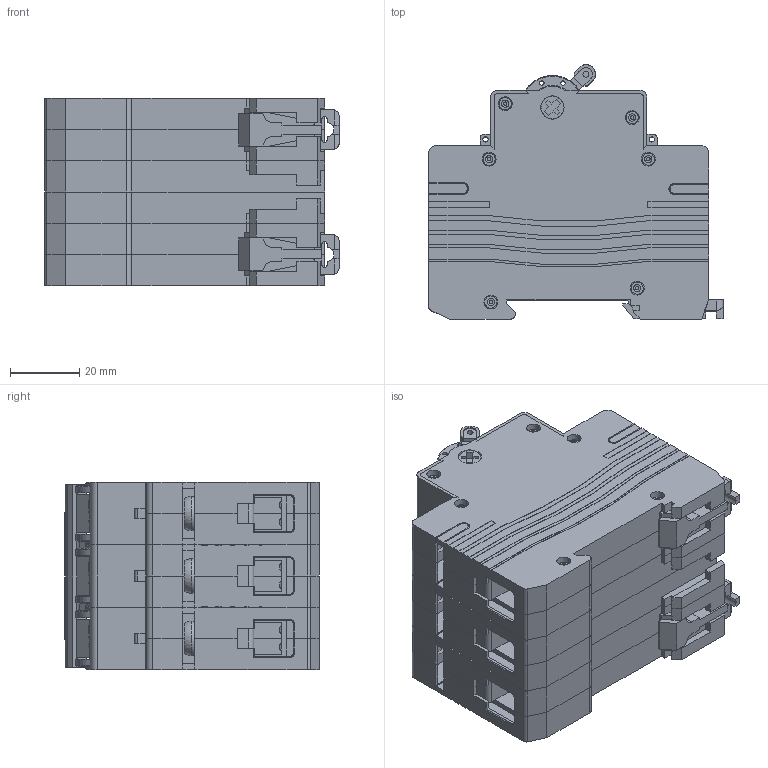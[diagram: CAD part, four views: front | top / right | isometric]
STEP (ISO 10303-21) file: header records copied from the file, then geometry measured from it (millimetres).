
FILE_DESCRIPTION (( 'STEP AP214' ), '1' );
FILE_NAME ('ﾌ瑕褪 OptiDin ﾂﾌ63PL-3.STEP', '2022-09-09T06:29:48', ( '' ), ( '' ), 'SwSTEP 2.0', 'SolidWorks 2018', '' );
FILE_SCHEMA (( 'AUTOMOTIVE_DESIGN' ));
Length unit declared in the file: millimetre
Products named in the file (10): Áîêîâèíà ëåâàÿ OptiDin ÂÌ63PL_-01; ﾌ瑕褪 OptiDin  ﾂﾌ63PL-3; Áîêîâèíà ïðàâàÿ OptiDin ÂÌ63PL_-01; Êîëîäêà OptiDin ÂÌ63PL; Ðó÷êà OptiDin ÂÌ63PL; 青觌屣赅 OptiDin 绿63PL_3; Ñêîáà OptiDin ÂÌ63PL_3; ﾂ鏆鮏 OptiDin ﾂﾌ63PL; 妈眚 闷仁.758151.057; Çàù¸ëêà ÃÆÈÊ.741358.031_¤«ï á¡®àª¨
Assembly tree (36 placements, depth 2):
  ﾌ瑕褪 OptiDin  ﾂﾌ63PL-3
    Áîêîâèíà ïðàâàÿ OptiDin ÂÌ63PL_-01  x3
    Áîêîâèíà ëåâàÿ OptiDin ÂÌ63PL_-01  x3
    Çàù¸ëêà ÃÆÈÊ.741358.031_¤«ï á¡®àª¨  x2
    妈眚 闷仁.758151.057  x6
    ﾂ鏆鮏 OptiDin ﾂﾌ63PL  x6
    Êîëîäêà OptiDin ÂÌ63PL  x6
    Ðó÷êà OptiDin ÂÌ63PL  x3
    青觌屣赅 OptiDin 绿63PL_3  x6
    Ñêîáà OptiDin ÂÌ63PL_3
Bounding box: 84.9 x 73.37 x 54 mm (x, y, z)
Volume: 87575.6 mm3; surface area: 127911.3 mm2
Topology: 36 solids, 36 shells, 3030 faces, 8099 edges, 5332 vertices
Faces by surface type: plane 1910, cylinder 967, cone 81, torus 45, bspline 27
Entity records: 32083 total; most frequent: CARTESIAN_POINT 6222, DIRECTION 5349, ORIENTED_EDGE 5270, EDGE_CURVE 2635, LINE 1805, VECTOR 1805, AXIS2_PLACEMENT_3D 1772, VERTEX_POINT 1737
